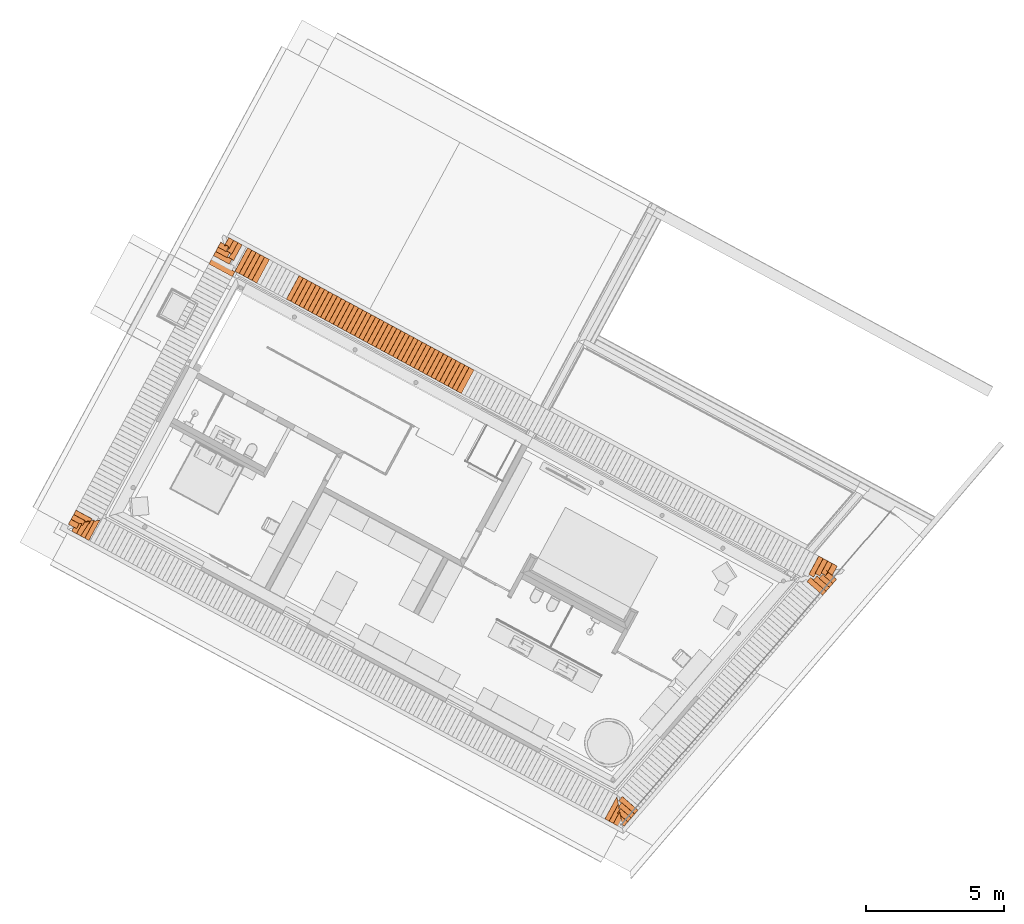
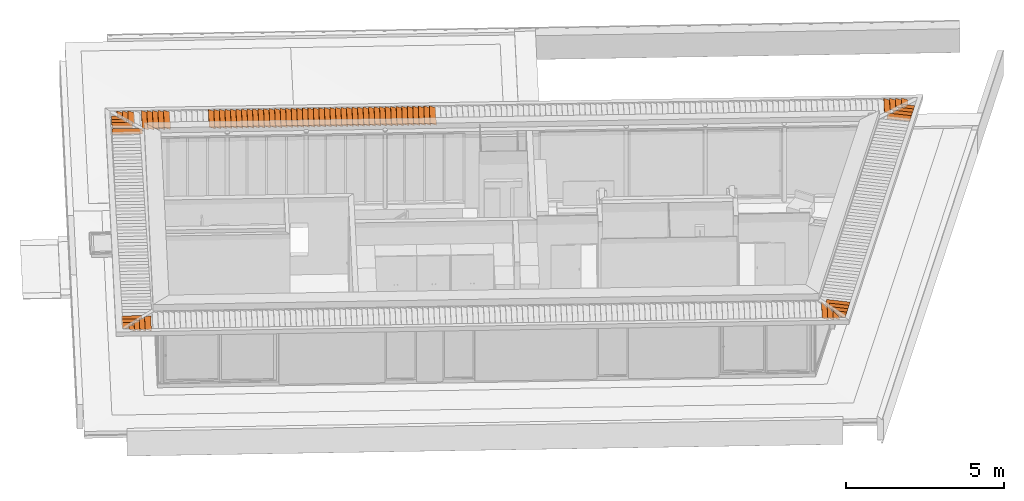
# One storey, part 40 of 41: 75 proxies.
"""IFC2X3 building model written with IfcOpenShell, lengths in metres."""

from ifc_helpers import new_model, entity, si_unit, converted_unit, derived_unit, money_unit, direction, frame, origin_with_axes, place, context, subcontext, project, spatial, faceted_brep, source, transform, mapped, material, type_object, element, save


model = new_model("IFC2X3")

# Units and contexts
model_context = context("Model", 3, precision=1e-05, world=origin_with_axes(), true_north=direction((0.0, 1.0)))
body_context = subcontext(model_context, "Body", "Model", "MODEL_VIEW")
ifc_project = project(units=[si_unit("LENGTHUNIT", "METRE"), si_unit("AREAUNIT", "SQUARE_METRE"), si_unit("VOLUMEUNIT", "CUBIC_METRE"), converted_unit("PLANEANGLEUNIT", "DEGREE", entity("IfcPlaneAngleMeasure", 0.0174532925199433), si_unit("PLANEANGLEUNIT", "RADIAN"), dimensions=[0, 0, 0, 0, 0, 0, 0]), money_unit("EUR"), converted_unit("TIMEUNIT", "Year", entity("IfcTimeMeasure", 31556926.0), si_unit("TIMEUNIT", "SECOND"), dimensions=[0, 0, 1, 0, 0, 0, 0]), si_unit("MASSUNIT", "GRAM", prefix="KILO"), si_unit("THERMODYNAMICTEMPERATUREUNIT", "DEGREE_CELSIUS"), si_unit("LUMINOUSINTENSITYUNIT", "LUMEN"), si_unit("ENERGYUNIT", "JOULE", prefix="MEGA"), derived_unit("THERMALCONDUCTANCEUNIT", [(si_unit("POWERUNIT", "WATT"), 1), (si_unit("LENGTHUNIT", "METRE"), -1), (si_unit("THERMODYNAMICTEMPERATUREUNIT", "KELVIN"), -1)]), derived_unit("SPECIFICHEATCAPACITYUNIT", [(si_unit("ENERGYUNIT", "JOULE"), 1), (si_unit("MASSUNIT", "GRAM", prefix="KILO"), -1), (si_unit("THERMODYNAMICTEMPERATUREUNIT", "KELVIN"), -1)]), derived_unit("MASSDENSITYUNIT", [(si_unit("MASSUNIT", "GRAM", prefix="KILO"), 1), (si_unit("VOLUMEUNIT", "CUBIC_METRE"), -1)])], contexts=[model_context])

# Site, building, storey
site_placement = place(None, frame((-3.949935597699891, 1.740105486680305, 0.0), z_axis=(0.0, 0.0, 1.0), x_axis=(0.8799804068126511, -0.475009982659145, 0.0)))
site = spatial("IfcSite", under=ifc_project, at=site_placement, Name="Gelände", CompositionType="ELEMENT")
building_placement = place(site_placement, origin_with_axes())
building = spatial("IfcBuilding", under=site, at=building_placement, Name="Gebäude", CompositionType="ELEMENT")
storey_placement = place(building_placement, frame((0.0, 0.0, 4.55), z_axis=(0.0, 0.0, 1.0), x_axis=(1.0, 0.0, 0.0)))
storey = spatial("IfcBuildingStorey", under=building, at=storey_placement, Name="Staffelgeschoss", CompositionType="ELEMENT", Elevation=4.55)

# Proxies
ifc_material = material(Name="ALLGEMEIN - BAUTEIL")
building_element_proxy_type = type_object("IfcBuildingElementProxyType", Name="ALLGEMEIN - BAUTEIL", PredefinedType="USERDEFINED")
shared_shape_1 = source(origin_with_axes(), body_context, "Body", "Brep", [
    faceted_brep([(0.2148913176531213, -0.9669323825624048, 0.0), (0.0, -0.9669000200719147, 0.0), (0.0, 0.0, 0.0), (0.2150369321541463, -3.238441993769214e-05, 0.0), (0.2148913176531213, -0.9669323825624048, 0.009999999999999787), (0.0, -0.9669000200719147, 0.009999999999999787), (0.0, 0.0, 0.009999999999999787), (0.2150369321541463, -3.238441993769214e-05, 0.009999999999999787)], [[[0, 1, 2, 3]], [[1, 0, 4, 5]], [[5, 6, 2, 1]], [[6, 7, 3, 2]], [[4, 0, 3, 7]], [[6, 5, 4, 7]]]),
])
for number, where, z_axis, x_axis, name in (
    (1, (5.034057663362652, 11.20856037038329, 2.903466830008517), (0.0, -0.3575193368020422, 0.933905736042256), (0.0, -0.933905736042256, -0.3575193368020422), "Morph-037"),
    (2, (7.140297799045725, 12.18825268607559, 2.903466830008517), (0.3575193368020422, 0.0, 0.933905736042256), (0.933905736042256, 0.0, -0.3575193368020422), "Morph-037"),
    (3, (7.315256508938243, 12.18825268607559, 2.903466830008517), (0.3575193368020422, 0.0, 0.933905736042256), (0.933905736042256, 0.0, -0.3575193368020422), "Morph-037"),
    (4, (7.66517392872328, 12.18825268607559, 2.903466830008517), (0.3575193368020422, 0.0, 0.933905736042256), (0.933905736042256, 0.0, -0.3575193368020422), "Morph-037"),
    (5, (7.490215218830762, 12.18825268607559, 2.903466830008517), (0.3575193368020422, 0.0, 0.933905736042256), (0.933905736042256, 0.0, -0.3575193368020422), "Morph-037"),
    (6, (8.015091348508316, 12.18825268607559, 2.903466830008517), (0.3575193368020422, 0.0, 0.933905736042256), (0.933905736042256, 0.0, -0.3575193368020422), "Morph-037"),
    (7, (7.840132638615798, 12.18825268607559, 2.903466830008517), (0.3575193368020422, 0.0, 0.933905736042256), (0.933905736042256, 0.0, -0.3575193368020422), "Morph-037"),
    (8, (8.365008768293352, 12.18825268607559, 2.903466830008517), (0.3575193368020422, 0.0, 0.933905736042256), (0.933905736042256, 0.0, -0.3575193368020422), "Morph-037"),
    (9, (8.190050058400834, 12.18825268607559, 2.903466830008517), (0.3575193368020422, 0.0, 0.933905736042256), (0.933905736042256, 0.0, -0.3575193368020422), "Morph-037"),
    (10, (8.53996747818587, 12.18825268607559, 2.903466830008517), (0.3575193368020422, 0.0, 0.933905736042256), (0.933905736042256, 0.0, -0.3575193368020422), "Morph-037"),
    (11, (8.714926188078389, 12.18825268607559, 2.903466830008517), (0.3575193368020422, 0.0, 0.933905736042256), (0.933905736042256, 0.0, -0.3575193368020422), "Morph-037"),
    (12, (8.889884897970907, 12.18825268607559, 2.903466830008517), (0.3575193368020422, 0.0, 0.933905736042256), (0.933905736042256, 0.0, -0.3575193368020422), "Morph-037"),
    (13, (9.064843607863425, 12.18825268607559, 2.903466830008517), (0.3575193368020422, 0.0, 0.933905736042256), (0.933905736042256, 0.0, -0.3575193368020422), "Morph-037"),
    (14, (9.239802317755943, 12.18825268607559, 2.903466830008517), (0.3575193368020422, 0.0, 0.933905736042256), (0.933905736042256, 0.0, -0.3575193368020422), "Morph-037"),
    (15, (9.58971973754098, 12.18825268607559, 2.903466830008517), (0.3575193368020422, 0.0, 0.933905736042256), (0.933905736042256, 0.0, -0.3575193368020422), "Morph-037"),
    (16, (9.939637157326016, 12.18825268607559, 2.903466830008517), (0.3575193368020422, 0.0, 0.933905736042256), (0.933905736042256, 0.0, -0.3575193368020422), "Morph-037"),
    (17, (9.414761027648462, 12.18825268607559, 2.903466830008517), (0.3575193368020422, 0.0, 0.933905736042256), (0.933905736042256, 0.0, -0.3575193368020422), "Morph-037"),
    (18, (10.11459586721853, 12.18825268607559, 2.903466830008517), (0.3575193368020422, 0.0, 0.933905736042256), (0.933905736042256, 0.0, -0.3575193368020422), "Morph-037"),
    (19, (9.764678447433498, 12.18825268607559, 2.903466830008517), (0.3575193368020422, 0.0, 0.933905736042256), (0.933905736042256, 0.0, -0.3575193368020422), "Morph-037"),
    (20, (10.28955457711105, 12.18825268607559, 2.903466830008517), (0.3575193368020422, 0.0, 0.933905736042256), (0.933905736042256, 0.0, -0.3575193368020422), "Morph-037"),
    (21, (10.63947199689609, 12.18825268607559, 2.903466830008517), (0.3575193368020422, 0.0, 0.933905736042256), (0.933905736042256, 0.0, -0.3575193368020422), "Morph-037"),
    (22, (10.81443070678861, 12.18825268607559, 2.903466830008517), (0.3575193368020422, 0.0, 0.933905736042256), (0.933905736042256, 0.0, -0.3575193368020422), "Morph-037"),
    (23, (10.98938941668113, 12.18825268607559, 2.903466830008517), (0.3575193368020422, 0.0, 0.933905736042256), (0.933905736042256, 0.0, -0.3575193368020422), "Morph-037"),
    (24, (10.46451328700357, 12.18825268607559, 2.903466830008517), (0.3575193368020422, 0.0, 0.933905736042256), (0.933905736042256, 0.0, -0.3575193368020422), "Morph-037"),
    (25, (11.16434812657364, 12.18825268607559, 2.903466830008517), (0.3575193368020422, 0.0, 0.933905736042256), (0.933905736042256, 0.0, -0.3575193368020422), "Morph-037"),
    (26, (11.33930683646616, 12.18825268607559, 2.903466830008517), (0.3575193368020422, 0.0, 0.933905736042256), (0.933905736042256, 0.0, -0.3575193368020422), "Morph-037"),
    (27, (11.51426554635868, 12.18825268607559, 2.903466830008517), (0.3575193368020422, 0.0, 0.933905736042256), (0.933905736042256, 0.0, -0.3575193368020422), "Morph-037"),
    (28, (11.6892242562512, 12.18825268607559, 2.903466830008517), (0.3575193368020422, 0.0, 0.933905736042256), (0.933905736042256, 0.0, -0.3575193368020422), "Morph-037"),
    (29, (11.86418296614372, 12.18825268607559, 2.903466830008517), (0.3575193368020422, 0.0, 0.933905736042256), (0.933905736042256, 0.0, -0.3575193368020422), "Morph-037"),
    (30, (12.03914167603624, 12.18825268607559, 2.903466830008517), (0.3575193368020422, 0.0, 0.933905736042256), (0.933905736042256, 0.0, -0.3575193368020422), "Morph-037"),
    (31, (12.38905909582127, 12.18825268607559, 2.903466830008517), (0.3575193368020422, 0.0, 0.933905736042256), (0.933905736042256, 0.0, -0.3575193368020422), "Morph-037"),
    (32, (12.21410038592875, 12.18825268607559, 2.903466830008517), (0.3575193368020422, 0.0, 0.933905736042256), (0.933905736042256, 0.0, -0.3575193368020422), "Morph-037"),
    (33, (12.56401780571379, 12.18825268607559, 2.903466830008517), (0.3575193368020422, 0.0, 0.933905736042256), (0.933905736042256, 0.0, -0.3575193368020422), "Morph-037"),
    (34, (12.73897651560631, 12.18825268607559, 2.903466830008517), (0.3575193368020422, 0.0, 0.933905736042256), (0.933905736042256, 0.0, -0.3575193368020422), "Morph-037"),
    (35, (13.08889393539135, 12.18825268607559, 2.903466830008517), (0.3575193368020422, 0.0, 0.933905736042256), (0.933905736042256, 0.0, -0.3575193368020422), "Morph-037"),
    (36, (12.91393522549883, 12.18825268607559, 2.903466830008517), (0.3575193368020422, 0.0, 0.933905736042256), (0.933905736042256, 0.0, -0.3575193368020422), "Morph-037"),
    (37, (13.43881135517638, 12.18825268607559, 2.903466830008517), (0.3575193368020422, 0.0, 0.933905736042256), (0.933905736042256, 0.0, -0.3575193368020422), "Morph-037"),
    (38, (13.6137700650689, 12.18825268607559, 2.903466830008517), (0.3575193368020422, 0.0, 0.933905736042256), (0.933905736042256, 0.0, -0.3575193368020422), "Morph-037"),
    (39, (13.26385264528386, 12.18825268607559, 2.903466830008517), (0.3575193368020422, 0.0, 0.933905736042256), (0.933905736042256, 0.0, -0.3575193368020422), "Morph-037"),
    (40, (13.78872877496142, 12.18825268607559, 2.903466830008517), (0.3575193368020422, 0.0, 0.933905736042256), (0.933905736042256, 0.0, -0.3575193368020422), "Morph-037"),
    (41, (13.96368748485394, 12.18825268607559, 2.903466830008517), (0.3575193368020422, 0.0, 0.933905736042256), (0.933905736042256, 0.0, -0.3575193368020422), "Morph-037"),
    (42, (14.13864619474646, 12.18825268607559, 2.903466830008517), (0.3575193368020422, 0.0, 0.933905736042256), (0.933905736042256, 0.0, -0.3575193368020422), "Morph-037"),
    (43, (5.195252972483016, 12.18825268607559, 2.903466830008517), (0.3575193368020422, 0.0, 0.933905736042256), (0.933905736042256, 0.0, -0.3575193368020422), "Morph-037"),
    (44, (5.020294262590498, 12.18825268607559, 2.903466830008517), (0.3575193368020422, 0.0, 0.933905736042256), (0.933905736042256, 0.0, -0.3575193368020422), "Morph-037"),
    (45, (5.370211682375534, 12.18825268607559, 2.903466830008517), (0.3575193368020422, 0.0, 0.933905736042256), (0.933905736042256, 0.0, -0.3575193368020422), "Morph-037"),
    (46, (5.720129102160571, 12.18825268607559, 2.903466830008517), (0.3575193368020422, 0.0, 0.933905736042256), (0.933905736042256, 0.0, -0.3575193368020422), "Morph-037"),
    (47, (5.545170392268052, 12.18825268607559, 2.903466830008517), (0.3575193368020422, 0.0, 0.933905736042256), (0.933905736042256, 0.0, -0.3575193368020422), "Morph-037"),
):
    element("IfcBuildingElementProxy", number, at=place(storey_placement, frame(where, z_axis=z_axis, x_axis=x_axis)), inside=storey, type_object=building_element_proxy_type, material=ifc_material, Name=name, ObjectType="SHADING_DEVICE", context=body_context, shape_type="MappedRepresentation", body=[
        mapped(shared_shape_1, transform((0.0, 0.0, 0.0))),
    ])
shared_shape_2 = source(origin_with_axes(), body_context, "Body", "Brep", [
    faceted_brep([(0.0, -0.9669000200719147, 0.0), (-0.0001004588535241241, -0.7460259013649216, -3.106447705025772e-05), (0.2149364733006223, -0.7460582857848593, -3.106447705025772e-05), (0.2148913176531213, -0.9669323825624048, 0.0), (0.0, -0.9669000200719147, 0.009999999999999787), (-0.0001004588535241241, -0.7460259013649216, 0.00996893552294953), (-8.335318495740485e-05, -0.6324419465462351, -3.106447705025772e-05), (0.214953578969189, -0.6324743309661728, -3.106447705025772e-05), (0.2148913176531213, -0.9669323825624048, 0.009999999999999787), (0.214953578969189, -0.6324743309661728, 0.00996893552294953), (0.2149364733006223, -0.7460582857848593, 0.00996893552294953), (-8.335318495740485e-05, -0.6324419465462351, 0.00996893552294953)], [[[0, 1, 2, 3]], [[4, 5, 1, 0]], [[1, 6, 7, 2]], [[8, 3, 2, 7, 9, 10]], [[3, 8, 4, 0]], [[5, 4, 8, 10]], [[1, 5, 11, 6]], [[6, 11, 9, 7]], [[11, 5, 10, 9]]]),
])
for number, where, z_axis, x_axis, name in (
    (48, (4.242682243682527, 12.82080615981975, 2.903466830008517), (0.3575193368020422, 0.0, 0.933905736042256), (0.933905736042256, 0.0, -0.3575193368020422), "Morph-037"),
    (49, (5.033767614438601, 11.90422063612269, 2.903466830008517), (0.0, -0.3575193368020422, 0.933905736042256), (0.0, -0.933905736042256, -0.3575193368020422), "Morph-037"),
    (50, (5.03390938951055, 0.4981556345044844, 2.903466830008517), (0.0, -0.3575193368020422, 0.933905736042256), (0.0, -0.933905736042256, -0.3575193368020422), "Morph-037"),
):
    element("IfcBuildingElementProxy", number, at=place(storey_placement, frame(where, z_axis=z_axis, x_axis=x_axis)), inside=storey, type_object=building_element_proxy_type, material=ifc_material, Name=name, ObjectType="SHADING_DEVICE", context=body_context, shape_type="MappedRepresentation", body=[
        mapped(shared_shape_2, transform((0.0, 0.0, 0.0))),
    ])
shared_shape_3 = source(origin_with_axes(), body_context, "Body", "Brep", [
    faceted_brep([(-1.412802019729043e-05, -1.11184161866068, 0.009994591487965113), (-7.71341312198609e-05, -0.5684486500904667, 0.009977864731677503), (-7.71341312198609e-05, -0.5684486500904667, -2.213526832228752e-05), (-1.412802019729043e-05, -1.11184161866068, -5.40851203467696e-06), (0.2148771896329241, -1.11187398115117, 0.009994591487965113), (0.2149711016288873, -0.4934235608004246, 0.009977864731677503), (-6.583052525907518e-05, -0.4933911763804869, 0.009977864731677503), (-6.583052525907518e-05, -0.4933911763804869, -2.213526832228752e-05), (0.2149711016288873, -0.4934235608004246, -2.213526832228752e-05), (0.2148771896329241, -1.11187398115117, -5.40851203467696e-06)], [[[0, 1, 2, 3]], [[1, 0, 4, 5, 6]], [[2, 1, 6, 7]], [[2, 7, 8, 9, 3]], [[9, 4, 0, 3]], [[4, 9, 8, 5]], [[7, 6, 5, 8]]]),
])
for number, where, z_axis, x_axis, name in (
    (51, (27.58384273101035, 0.6906086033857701, 2.903466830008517), (-0.07972357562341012, -0.3485171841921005, 0.933905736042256), (-0.2082525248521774, -0.9103904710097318, -0.3575193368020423), "Morph-037"),
    (52, (29.90126334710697, 11.28432835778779, 2.903466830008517), (-0.07787668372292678, -0.3489345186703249, 0.933905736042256), (-0.2034281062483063, -0.9114806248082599, -0.3575193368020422), "Morph-037"),
    (53, (28.7121744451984, 12.68195565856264, 2.903466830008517), (0.3575193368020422, 0.0, 0.933905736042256), (0.933905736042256, 0.0, -0.3575193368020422), "Morph-037"),
):
    element("IfcBuildingElementProxy", number, at=place(storey_placement, frame(where, z_axis=z_axis, x_axis=x_axis)), inside=storey, type_object=building_element_proxy_type, material=ifc_material, Name=name, ObjectType="SHADING_DEVICE", context=body_context, shape_type="MappedRepresentation", body=[
        mapped(shared_shape_3, transform((0.0, 0.0, 0.0))),
    ])
shared_shape_4 = source(origin_with_axes(), body_context, "Body", "Brep", [
    faceted_brep([(-7.71341312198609e-05, -0.5684486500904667, -2.213526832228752e-05), (-6.583052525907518e-05, -0.4933911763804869, -2.213526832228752e-05), (0.2149711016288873, -0.4934235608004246, -2.213526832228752e-05), (0.2148913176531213, -0.9669323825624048, 0.0), (0.0, -0.9669000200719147, 0.0), (-7.71341312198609e-05, -0.5684486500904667, 0.009977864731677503), (-6.583052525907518e-05, -0.4933911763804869, 0.009977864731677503), (0.2149711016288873, -0.4934235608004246, 0.009977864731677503), (0.2148913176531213, -0.9669323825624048, 0.009999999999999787), (0.0, -0.9669000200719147, 0.009999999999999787)], [[[0, 1, 2, 3, 4]], [[0, 5, 6, 1]], [[1, 6, 7, 2]], [[8, 3, 2, 7]], [[3, 8, 9, 4]], [[9, 5, 0, 4]], [[5, 9, 8, 7, 6]]]),
])
for number, where, z_axis, x_axis, name in (
    (54, (4.420197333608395, 12.68172678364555, 2.903466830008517), (0.3575193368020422, 0.0, 0.933905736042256), (0.933905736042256, 0.0, -0.3575193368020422), "Morph-037"),
    (55, (5.033909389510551, 11.72668596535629, 2.903466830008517), (0.0, -0.3575193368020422, 0.933905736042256), (0.0, -0.933905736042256, -0.3575193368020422), "Morph-037"),
    (56, (5.03390938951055, 0.6952686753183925, 2.903466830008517), (0.0, -0.3575193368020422, 0.933905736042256), (0.0, -0.933905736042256, -0.3575193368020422), "Morph-037"),
):
    element("IfcBuildingElementProxy", number, at=place(storey_placement, frame(where, z_axis=z_axis, x_axis=x_axis)), inside=storey, type_object=building_element_proxy_type, material=ifc_material, Name=name, ObjectType="SHADING_DEVICE", context=body_context, shape_type="MappedRepresentation", body=[
        mapped(shared_shape_4, transform((0.0, 0.0, 0.0))),
    ])
shared_shape_5 = source(origin_with_axes(), body_context, "Body", "Brep", [
    faceted_brep([(-0.0001004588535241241, -0.7460259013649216, 0.00996893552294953), (-0.0001004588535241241, -0.7460259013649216, -3.106447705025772e-05), (-2.162352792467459e-05, -1.131525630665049, -8.277954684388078e-06), (-2.162352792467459e-05, -1.131525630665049, 0.0099917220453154), (-8.335318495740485e-05, -0.6324419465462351, 0.00996893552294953), (-8.335318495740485e-05, -0.6324419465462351, -3.106447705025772e-05), (0.2149364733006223, -0.7460582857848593, -3.106447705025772e-05), (0.2148696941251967, -1.131557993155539, -8.277954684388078e-06), (0.2148696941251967, -1.131557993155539, 0.0099917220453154), (0.2149364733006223, -0.7460582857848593, 0.00996893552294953), (0.214953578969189, -0.6324743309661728, 0.00996893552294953), (0.214953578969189, -0.6324743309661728, -3.106447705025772e-05)], [[[0, 1, 2, 3]], [[1, 0, 4, 5]], [[2, 1, 6, 7]], [[7, 8, 3, 2]], [[0, 3, 8, 9]], [[4, 0, 9, 10]], [[5, 4, 10, 11]], [[1, 5, 11, 6]], [[8, 7, 6, 11, 10, 9]]]),
])
for number, where, z_axis, x_axis, name in (
    (57, (27.67779845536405, 0.4779061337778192, 2.903466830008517), (-0.07972357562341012, -0.3485171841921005, 0.933905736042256), (-0.2082525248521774, -0.9103904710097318, -0.3575193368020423), "Morph-037"),
    (58, (30.07800259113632, 11.43772505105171, 2.903466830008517), (-0.07787668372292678, -0.3489345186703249, 0.933905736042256), (-0.2034281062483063, -0.9114806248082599, -0.3575193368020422), "Morph-037"),
    (59, (28.89856990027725, 12.82097635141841, 2.903466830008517), (0.3575193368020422, 0.0, 0.933905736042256), (0.933905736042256, 0.0, -0.3575193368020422), "Morph-037"),
):
    element("IfcBuildingElementProxy", number, at=place(storey_placement, frame(where, z_axis=z_axis, x_axis=x_axis)), inside=storey, type_object=building_element_proxy_type, material=ifc_material, Name=name, ObjectType="SHADING_DEVICE", context=body_context, shape_type="MappedRepresentation", body=[
        mapped(shared_shape_5, transform((0.0, 0.0, 0.0))),
    ])
shared_shape_6 = source(origin_with_axes(), body_context, "Body", "Brep", [
    faceted_brep([(-0.0001004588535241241, -0.7460259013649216, 0.00996893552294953), (-0.0001004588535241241, -0.7460259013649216, -3.106447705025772e-05), (-2.162352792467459e-05, -1.131525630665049, -8.277954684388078e-06), (-2.162352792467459e-05, -1.131525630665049, 0.0099917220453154), (-8.335318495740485e-05, -0.6324419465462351, 0.00996893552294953), (-8.335318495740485e-05, -0.6324419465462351, -3.106447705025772e-05), (0.2149364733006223, -0.7460582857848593, -3.106447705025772e-05), (0.2148847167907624, -1.03180546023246, -8.277954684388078e-06), (-6.60086235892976e-06, -1.03177309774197, -8.277954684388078e-06), (-6.60086235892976e-06, -1.03177309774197, 0.0099917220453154), (0.2148847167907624, -1.03180546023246, 0.0099917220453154), (0.2149364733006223, -0.7460582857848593, 0.00996893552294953), (0.214953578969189, -0.6324743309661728, 0.00996893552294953), (0.214953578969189, -0.6324743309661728, -3.106447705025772e-05)], [[[0, 1, 2, 3]], [[1, 0, 4, 5]], [[2, 1, 6, 7, 8]], [[3, 2, 8, 9]], [[0, 3, 9, 10, 11]], [[4, 0, 11, 12]], [[5, 4, 12, 13]], [[1, 5, 13, 6]], [[11, 10, 7, 6, 13, 12]], [[9, 8, 7, 10]]]),
])
for number, where, z_axis, x_axis, name in (
    (60, (30.11838077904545, 11.61850655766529, 2.903466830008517), (-0.07787668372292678, -0.3489345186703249, 0.933905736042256), (-0.2034281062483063, -0.9114806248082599, -0.3575193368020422), "Morph-037"),
    (61, (27.634997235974, 0.2909363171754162, 2.903466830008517), (-0.07972357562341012, -0.3485171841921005, 0.933905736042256), (-0.2082525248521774, -0.9103904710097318, -0.3575193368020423), "Morph-037"),
    (62, (29.09037619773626, 12.82094542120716, 2.903466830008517), (0.3575193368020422, 0.0, 0.933905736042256), (0.933905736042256, 0.0, -0.3575193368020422), "Morph-037"),
):
    element("IfcBuildingElementProxy", number, at=place(storey_placement, frame(where, z_axis=z_axis, x_axis=x_axis)), inside=storey, type_object=building_element_proxy_type, material=ifc_material, Name=name, ObjectType="SHADING_DEVICE", context=body_context, shape_type="MappedRepresentation", body=[
        mapped(shared_shape_6, transform((0.0, 0.0, 0.0))),
    ])
shared_shape_7 = source(origin_with_axes(), body_context, "Body", "Brep", [
    faceted_brep([(0.0, -0.9669000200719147, 0.0), (-5.340442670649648e-05, -0.3143936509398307, -1.305102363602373e-05), (0.2149835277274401, -0.3144260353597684, -1.305102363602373e-05), (0.2148913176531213, -0.9669323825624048, 0.0), (0.0, -0.9669000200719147, 0.009999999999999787), (-5.340442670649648e-05, -0.3143936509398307, 0.00998694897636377), (0.2149835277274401, -0.3144260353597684, 0.00998694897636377), (0.2148913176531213, -0.9669323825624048, 0.009999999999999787)], [[[0, 1, 2, 3]], [[4, 5, 1, 0]], [[1, 5, 6, 2]], [[7, 3, 2, 6]], [[0, 3, 7, 4]], [[5, 4, 7, 6]]]),
])
for number, where, z_axis, x_axis, name in (
    (63, (4.592027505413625, 12.50270094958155, 2.903466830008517), (0.3575193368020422, 0.0, 0.933905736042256), (0.933905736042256, 0.0, -0.3575193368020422), "Morph-037"),
    (64, (5.033951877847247, 11.55482755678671, 2.903466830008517), (0.0, -0.3575193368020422, 0.933905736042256), (0.0, -0.933905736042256, -0.3575193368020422), "Morph-037"),
    (65, (5.033951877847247, 0.8765738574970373, 2.903466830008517), (0.0, -0.3575193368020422, 0.933905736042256), (0.0, -0.933905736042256, -0.3575193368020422), "Morph-037"),
):
    element("IfcBuildingElementProxy", number, at=place(storey_placement, frame(where, z_axis=z_axis, x_axis=x_axis)), inside=storey, type_object=building_element_proxy_type, material=ifc_material, Name=name, ObjectType="SHADING_DEVICE", context=body_context, shape_type="MappedRepresentation", body=[
        mapped(shared_shape_7, transform((0.0, 0.0, 0.0))),
    ])
shared_shape_8 = source(origin_with_axes(), body_context, "Body", "Brep", [
    faceted_brep([(-1.195617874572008e-05, -1.069461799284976, -4.577084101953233e-06), (-5.340442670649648e-05, -0.3143936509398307, -1.305102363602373e-05), (0.2149835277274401, -0.3144260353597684, -1.305102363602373e-05), (0.2148793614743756, -1.069494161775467, -4.577084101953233e-06), (-1.195617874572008e-05, -1.069461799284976, 0.009995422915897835), (-5.340442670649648e-05, -0.3143936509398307, 0.00998694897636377), (0.2149835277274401, -0.3144260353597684, 0.00998694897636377), (0.2148793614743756, -1.069494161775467, 0.009995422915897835)], [[[0, 1, 2, 3]], [[4, 5, 1, 0]], [[1, 5, 6, 2]], [[7, 3, 2, 6]], [[0, 3, 7, 4]], [[5, 4, 7, 6]]]),
])
for number, where, z_axis, x_axis, name in (
    (66, (27.45032114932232, 0.9094916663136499, 2.903466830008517), (-0.07972357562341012, -0.3485171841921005, 0.933905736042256), (-0.2082525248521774, -0.9103904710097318, -0.3575193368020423), "Morph-037"),
    (67, (29.68516170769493, 11.13794960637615, 2.903466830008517), (-0.07787668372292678, -0.3489345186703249, 0.933905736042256), (-0.2034281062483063, -0.9114806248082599, -0.3575193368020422), "Morph-037"),
    (68, (28.52857684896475, 12.50298713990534, 2.903466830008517), (0.3575193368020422, 0.0, 0.933905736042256), (0.933905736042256, 0.0, -0.3575193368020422), "Morph-037"),
):
    element("IfcBuildingElementProxy", number, at=place(storey_placement, frame(where, z_axis=z_axis, x_axis=x_axis)), inside=storey, type_object=building_element_proxy_type, material=ifc_material, Name=name, ObjectType="SHADING_DEVICE", context=body_context, shape_type="MappedRepresentation", body=[
        mapped(shared_shape_8, transform((0.0, 0.0, 0.0))),
    ])
proxy_1_placement = place(storey_placement, frame((4.28713815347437, 1.09692488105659, 2.903466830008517), z_axis=(0.3575193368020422, 0.0, 0.933905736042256), x_axis=(0.933905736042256, 0.0, -0.3575193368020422)))
element("IfcBuildingElementProxy", 69, at=proxy_1_placement, inside=storey, type_object=building_element_proxy_type, material=ifc_material, Name="Morph-037", ObjectType="SHADING_DEVICE", context=body_context, shape_type="Brep", body=[
    faceted_brep([(-0.002249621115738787, -0.6982773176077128, 0.009146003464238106), (0.2133564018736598, -0.5370370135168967, -0.000635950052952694), (0.2148913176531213, -0.9669323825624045, 0.0), (0.2133564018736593, -0.5370370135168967, 0.009364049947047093), (0.2148913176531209, -0.9669323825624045, 0.01000000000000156), (0.0, -0.9669000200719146, 0.0), (0.0, -0.9669000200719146, 0.009999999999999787)], [[[0, 1, 2]], [[1, 0, 3]], [[1, 3, 4, 2]], [[5, 0, 2]], [[0, 4, 3]], [[5, 2, 4, 6]], [[0, 5, 6]], [[0, 6, 4]]]),
])
proxy_2_placement = place(storey_placement, frame((4.456730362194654, 1.096952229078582, 2.903466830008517), z_axis=(0.3575193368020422, 0.0, 0.933905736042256), x_axis=(0.933905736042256, 0.0, -0.3575193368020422)))
element("IfcBuildingElementProxy", 70, at=proxy_2_placement, inside=storey, type_object=building_element_proxy_type, material=ifc_material, Name="Morph-037", ObjectType="SHADING_DEVICE", context=body_context, shape_type="Brep", body=[
    faceted_brep([(-0.001477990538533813, -0.5084069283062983, 0.009441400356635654), (0.2141280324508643, -0.3471666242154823, -0.000340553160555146), (0.2148913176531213, -0.9669323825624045, 0.0), (0.2571207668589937, -0.3471627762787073, 0.02611799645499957), (0.0, -0.9669000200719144, 0.0), (0.2148913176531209, -0.9669323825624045, 0.01000000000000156), (0.0, -0.9669000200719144, 0.009999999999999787)], [[[0, 1, 2]], [[1, 0, 3]], [[2, 1, 3]], [[4, 0, 2]], [[0, 5, 3]], [[5, 2, 3]], [[0, 4, 6]], [[4, 2, 5, 6]], [[0, 6, 5]]]),
])
proxy_3_placement = place(storey_placement, frame((4.626322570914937, 1.096952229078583, 2.903466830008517), z_axis=(0.3575193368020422, 0.0, 0.933905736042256), x_axis=(0.933905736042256, 0.0, -0.3575193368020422)))
element("IfcBuildingElementProxy", 71, at=proxy_3_placement, inside=storey, type_object=building_element_proxy_type, material=ifc_material, Name="Morph-037", ObjectType="SHADING_DEVICE", context=body_context, shape_type="Brep", body=[
    faceted_brep([(-0.0009645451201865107, -0.3820665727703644, 0.009637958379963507), (0.2146414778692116, -0.2208262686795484, -0.000143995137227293), (0.2148913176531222, -0.9669323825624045, 0.0), (0.2146414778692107, -0.2208262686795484, 0.009856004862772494), (0.2148913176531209, -0.9669323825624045, 0.009999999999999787), (0.0, -0.9669000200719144, 0.0), (0.0, -0.9669000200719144, 0.009999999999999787)], [[[0, 1, 2]], [[1, 0, 3]], [[1, 3, 4, 2]], [[5, 0, 2]], [[0, 4, 3]], [[5, 2, 4, 6]], [[0, 5, 6]], [[0, 6, 4]]]),
])
proxy_4_placement = place(storey_placement, frame((4.79591477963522, 1.096924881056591, 2.903466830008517), z_axis=(0.3575193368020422, 0.0, 0.933905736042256), x_axis=(0.933905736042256, 0.0, -0.3575193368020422)))
element("IfcBuildingElementProxy", 72, at=proxy_4_placement, inside=storey, type_object=building_element_proxy_type, material=ifc_material, Name="Morph-037", ObjectType="SHADING_DEVICE", context=body_context, shape_type="Brep", body=[
    faceted_brep([(-0.0005884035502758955, -0.289511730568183, 0.009781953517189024), (0.2148913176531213, -0.9669323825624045, 0.0), (0.0, -0.9669000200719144, 0.0), (0.2150176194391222, -0.128271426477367, 0.0), (0.21489131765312, -0.9669323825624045, 0.009999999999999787), (0.0, -0.9669000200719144, 0.00999999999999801), (0.2150176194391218, -0.128271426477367, 0.009999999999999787)], [[[0, 1, 2]], [[1, 0, 3]], [[2, 1, 4, 5]], [[0, 2, 5]], [[3, 0, 6]], [[4, 1, 3, 6]], [[0, 5, 4]], [[0, 4, 6]]]),
])
proxy_5_placement = place(storey_placement, frame((26.23473814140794, 1.096892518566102, 2.903466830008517), z_axis=(0.3575193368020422, 0.0, 0.933905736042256), x_axis=(0.933905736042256, 0.0, -0.3575193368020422)))
element("IfcBuildingElementProxy", 73, at=proxy_5_placement, inside=storey, type_object=building_element_proxy_type, material=ifc_material, Name="Morph-037", ObjectType="SHADING_DEVICE", context=body_context, shape_type="Brep", body=[
    faceted_brep([(0.0, -0.04819772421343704, 0.01000000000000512), (0.0, -0.9669000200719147, 0.01000000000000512), (0.2116597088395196, -0.2918466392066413, 0.00870712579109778), (0.003338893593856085, -0.04819772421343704, 0.001278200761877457), (0.2148913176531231, -0.9669323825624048, 0.01000000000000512), (0.2149986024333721, -0.2918466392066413, -1.467344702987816e-05), (0.0, -0.9669000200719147, 0.0), (0.2148913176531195, -0.9669323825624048, 0.0)], [[[0, 1, 2]], [[1, 0, 3]], [[1, 4, 2]], [[0, 2, 5]], [[3, 0, 5]], [[6, 1, 3]], [[1, 6, 7, 4]], [[4, 7, 5, 2]], [[6, 3, 5]], [[7, 6, 5]]]),
])
proxy_6_placement = place(storey_placement, frame((26.40969685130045, 1.096892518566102, 2.903466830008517), z_axis=(0.3575193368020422, 0.0, 0.933905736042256), x_axis=(0.933905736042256, 0.0, -0.3575193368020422)))
element("IfcBuildingElementProxy", 74, at=proxy_6_placement, inside=storey, type_object=building_element_proxy_type, material=ifc_material, Name="Morph-037", ObjectType="SHADING_DEVICE", context=body_context, shape_type="Brep", body=[
    faceted_brep([(0.0, -0.2637647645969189, 0.01000000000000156), (0.0, -0.9669000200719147, 0.01000000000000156), (0.2149690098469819, -0.5171427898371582, 0.00997399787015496), (0.003338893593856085, -0.2637647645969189, 0.001278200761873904), (0.2148913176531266, -0.9669323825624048, 0.01000000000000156), (0.2149695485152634, -0.5130417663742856, -2.579591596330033e-05), (0.0, -0.9669000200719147, 0.0), (0.2148913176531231, -0.9669323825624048, 0.0)], [[[0, 1, 2]], [[1, 0, 3]], [[1, 4, 2]], [[0, 2, 5]], [[3, 0, 5]], [[6, 1, 3]], [[1, 6, 7, 4]], [[4, 7, 5, 2]], [[6, 3, 5]], [[7, 6, 5]]]),
])
proxy_7_placement = place(storey_placement, frame((26.58465556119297, 1.096892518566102, 2.903466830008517), z_axis=(0.3575193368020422, 0.0, 0.933905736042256), x_axis=(0.933905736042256, 0.0, -0.3575193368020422)))
element("IfcBuildingElementProxy", 75, at=proxy_7_placement, inside=storey, type_object=building_element_proxy_type, material=ifc_material, Name="Morph-037", ObjectType="SHADING_DEVICE", context=body_context, shape_type="Brep", body=[
    faceted_brep([(-0.003338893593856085, -0.4834500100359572, 0.008721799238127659), (0.0, -0.9669000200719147, 0.01000000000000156), (0.2149426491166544, -0.717833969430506, 0.009963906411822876), (0.0, -0.4834500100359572, 0.0), (0.2148913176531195, -0.9669323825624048, 0.01000000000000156), (0.2149426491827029, -0.7178334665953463, -3.609356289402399e-05), (0.0, -0.9669000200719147, 0.0), (0.2148913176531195, -0.9669323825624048, 0.0)], [[[0, 1, 2]], [[1, 0, 3]], [[1, 4, 2]], [[0, 2, 5]], [[3, 0, 5]], [[6, 1, 3]], [[1, 6, 7, 4]], [[2, 4, 5]], [[6, 3, 5]], [[7, 6, 5]], [[4, 7, 5]]]),
])

save(model, "model.ifc")
